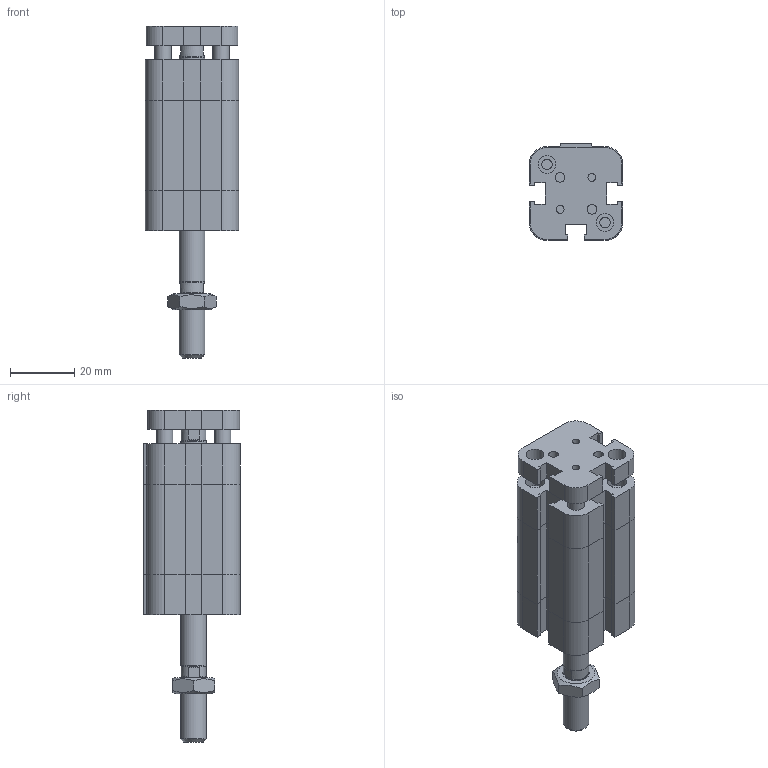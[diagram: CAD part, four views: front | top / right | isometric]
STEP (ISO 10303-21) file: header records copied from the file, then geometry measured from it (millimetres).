
FILE_DESCRIPTION((''),'2;1');
FILE_NAME('I:\Area Tecnica\Disegni\VARIE-3D\Componenti\EUROPE\15##_###_####_09_#\1581_16_0015_09_1.iam.stp','2009-04-20T15:42:33',(''),(''),'Autodesk Inventor 2009','Autodesk Inventor 2009','');
FILE_SCHEMA(('AUTOMOTIVE_DESIGN { 1 0 10303 214 1 1 1 1 }'));
Length unit declared in the file: millimetre
Products named in the file (4): 1581_16_0015_09_1; 1581_16_0015_08_1_C; 1561_16_0015_09_1_SA; DBM8
Assembly tree (3 placements, depth 2):
  1581_16_0015_09_1
    1581_16_0015_08_1_C
    1561_16_0015_09_1_SA
    DBM8
Bounding box: 29 x 30 x 103 mm (x, y, z)
Volume: 44484 mm3; surface area: 19099 mm2
Topology: 3 solids, 3 shells, 223 faces, 523 edges, 326 vertices
Faces by surface type: plane 144, bspline 46, cylinder 23, cone 10
Full cylindrical faces by diameter (mm): 5 x2, 6.5 x1, 7.8 x2, 8 x2
Entity records: 6544 total; most frequent: CARTESIAN_POINT 1548, ORIENTED_EDGE 934, DIRECTION 916, EDGE_CURVE 467, VECTOR 346, LINE 346, VERTEX_POINT 309, EDGE_LOOP 298
